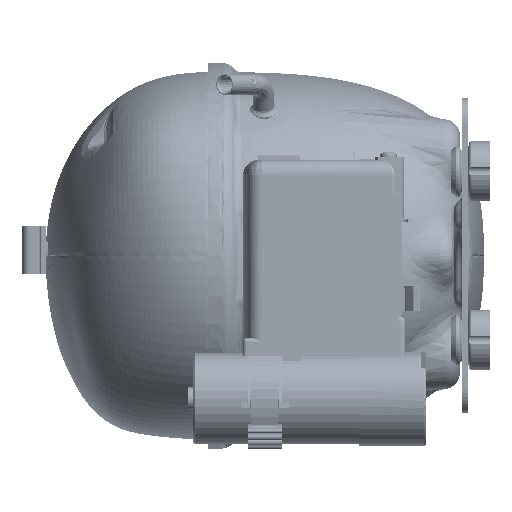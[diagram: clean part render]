
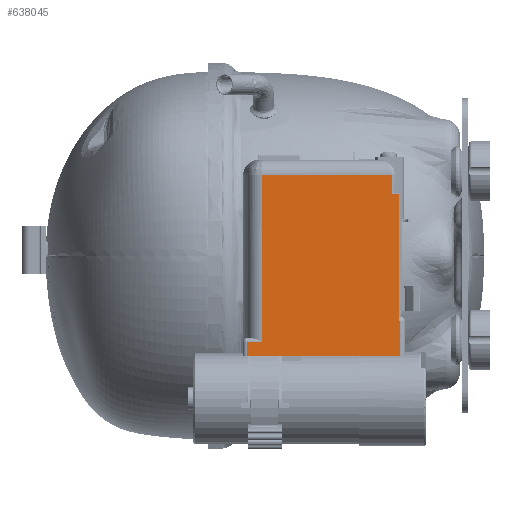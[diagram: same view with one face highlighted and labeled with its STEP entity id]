
A CAD part, left-side view. The second image highlights one B-rep face of the part: STEP entity #638045.
In plain terms, the highlighted planar face has unit normal (-1, 0, 0) as drawn and (1, 0, 0) by its records, which use the part's own axes.
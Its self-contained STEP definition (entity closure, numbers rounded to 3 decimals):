
#622954=DIRECTION('',(0.,0.,-1.));
#622955=VECTOR('',#622954,69.1);
#622956=CARTESIAN_POINT('',(39.,25.478,35.2));
#622957=LINE('',#622956,#622955);
#622958=DIRECTION('',(0.,-1.,0.));
#622959=VECTOR('',#622958,54.021);
#622960=CARTESIAN_POINT('',(39.,25.478,-33.9));
#622961=LINE('',#622960,#622959);
#622962=CARTESIAN_POINT('',(39.,-23.543,-33.9));
#622963=DIRECTION('',(1.,0.,0.));
#622964=DIRECTION('',(0.,-1.,0.009));
#622965=AXIS2_PLACEMENT_3D('',#622962,#622963,#622964);
#622967=DIRECTION('',(0.,-1.,0.));
#622968=VECTOR('',#622967,3.022);
#622969=CARTESIAN_POINT('',(39.,-28.478,-26.4));
#622970=LINE('',#622969,#622968);
#622971=DIRECTION('',(0.,-1.,0.));
#622972=VECTOR('',#622971,0.6);
#622973=CARTESIAN_POINT('',(39.,-31.5,26.7));
#622974=LINE('',#622973,#622972);
#622975=DIRECTION('',(0.,0.,-1.));
#622976=VECTOR('',#622975,14.5);
#622977=CARTESIAN_POINT('',(39.,-32.1,41.2));
#622978=LINE('',#622977,#622976);
#622979=DIRECTION('',(0.,1.,0.));
#622980=VECTOR('',#622979,63.9);
#622981=CARTESIAN_POINT('',(39.,-32.1,41.2));
#622982=LINE('',#622981,#622980);
#622983=DIRECTION('',(0.,0.,-1.));
#622984=VECTOR('',#622983,6.);
#622985=CARTESIAN_POINT('',(39.,31.8,41.2));
#622986=LINE('',#622985,#622984);
#623029=DIRECTION('',(0.,1.,0.));
#623030=VECTOR('',#623029,6.322);
#623031=CARTESIAN_POINT('',(39.,25.478,35.2));
#623032=LINE('',#623031,#623030);
#630650=CARTESIAN_POINT('',(39.,25.478,-33.9));
#634330=DIRECTION('',(0.,-0.009,-1.));
#634331=VECTOR('',#634330,7.457);
#634332=CARTESIAN_POINT('',(39.,-28.478,-26.4));
#634333=LINE('',#634332,#634331);
#634364=DIRECTION('',(0.,0.,-1.));
#634365=VECTOR('',#634364,53.1);
#634366=CARTESIAN_POINT('',(39.,-31.5,26.7));
#634367=LINE('',#634366,#634365);
#634647=CARTESIAN_POINT('',(39.,31.8,41.2));
#634649=VERTEX_POINT('',#634647);
#634651=CARTESIAN_POINT('',(39.,-32.1,41.2));
#634652=VERTEX_POINT('',#634651);
#634654=CARTESIAN_POINT('',(39.,31.8,35.2));
#634656=VERTEX_POINT('',#634654);
#634715=CARTESIAN_POINT('',(39.,-32.1,26.7));
#634716=VERTEX_POINT('',#634715);
#634719=CARTESIAN_POINT('',(39.,-31.5,26.7));
#634720=VERTEX_POINT('',#634719);
#634722=CARTESIAN_POINT('',(39.,-31.5,-26.4));
#634724=VERTEX_POINT('',#634722);
#634725=CARTESIAN_POINT('',(39.,-28.478,-26.4));
#634726=VERTEX_POINT('',#634725);
#635149=VERTEX_POINT('',#630650);
#635154=CARTESIAN_POINT('',(39.,25.478,35.2));
#635155=VERTEX_POINT('',#635154);
#635156=CARTESIAN_POINT('',(39.,-28.543,-33.9));
#635157=VERTEX_POINT('',#635156);
#635477=CARTESIAN_POINT('',(39.,-28.543,-33.856));
#635478=VERTEX_POINT('',#635477);
#638020=CARTESIAN_POINT('',(39.,-30.1,41.2));
#638021=DIRECTION('',(1.,0.,0.));
#638022=DIRECTION('',(0.,1.,0.));
#638023=AXIS2_PLACEMENT_3D('',#638020,#638021,#638022);
#638024=PLANE('',#638023);
#638026=ORIENTED_EDGE('',*,*,#638025,.T.);
#638028=ORIENTED_EDGE('',*,*,#638027,.T.);
#638029=ORIENTED_EDGE('',*,*,#638010,.F.);
#638031=ORIENTED_EDGE('',*,*,#638030,.F.);
#638033=ORIENTED_EDGE('',*,*,#638032,.T.);
#638035=ORIENTED_EDGE('',*,*,#638034,.F.);
#638036=ORIENTED_EDGE('',*,*,#637942,.T.);
#638037=ORIENTED_EDGE('',*,*,#637916,.F.);
#638038=ORIENTED_EDGE('',*,*,#637872,.T.);
#638040=ORIENTED_EDGE('',*,*,#638039,.T.);
#638042=ORIENTED_EDGE('',*,*,#638041,.F.);
#638043=EDGE_LOOP('',(#638026,#638028,#638029,#638031,#638033,#638035,#638036,
#638037,#638038,#638040,#638042));
#638044=FACE_OUTER_BOUND('',#638043,.F.);
#638045=ADVANCED_FACE('',(#638044),#638024,.T.);
#622966=CIRCLE('',#622965,5.);
#637872=EDGE_CURVE('',#634652,#634649,#622982,.T.);
#637916=EDGE_CURVE('',#634652,#634716,#622978,.T.);
#637942=EDGE_CURVE('',#634720,#634716,#622974,.T.);
#638010=EDGE_CURVE('',#635478,#635157,#622966,.T.);
#638025=EDGE_CURVE('',#635155,#635149,#622957,.T.);
#638027=EDGE_CURVE('',#635149,#635157,#622961,.T.);
#638030=EDGE_CURVE('',#634726,#635478,#634333,.T.);
#638032=EDGE_CURVE('',#634726,#634724,#622970,.T.);
#638034=EDGE_CURVE('',#634720,#634724,#634367,.T.);
#638039=EDGE_CURVE('',#634649,#634656,#622986,.T.);
#638041=EDGE_CURVE('',#635155,#634656,#623032,.T.);
